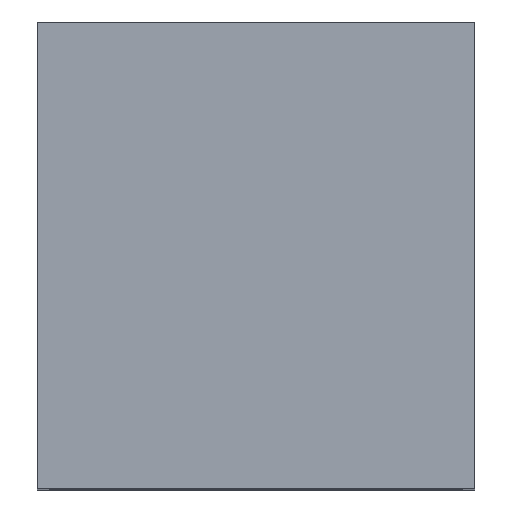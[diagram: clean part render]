
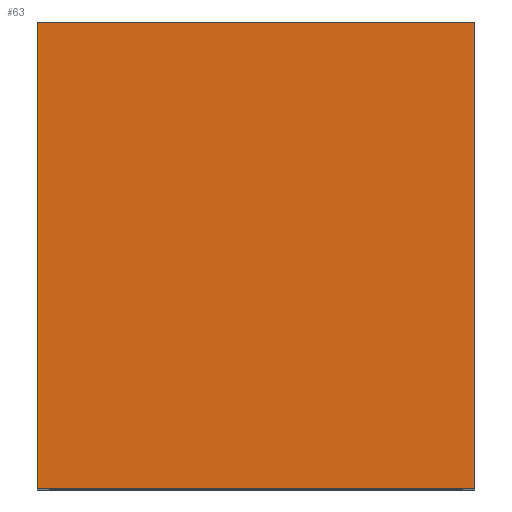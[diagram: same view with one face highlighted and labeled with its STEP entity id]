
A CAD part, top view. The second image highlights one B-rep face of the part: STEP entity #63.
In plain terms, the highlighted planar face has unit normal (0, 0, 1).
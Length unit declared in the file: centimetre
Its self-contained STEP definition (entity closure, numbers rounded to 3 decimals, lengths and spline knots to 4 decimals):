
#63=ADVANCED_FACE($,(#147),#931,.T.);
#147=FACE_OUTER_BOUND($,#231,.T.);
#231=EDGE_LOOP($,(#384,#385,#386,#387));
#384=ORIENTED_EDGE($,*,*,#671,.F.);
#385=ORIENTED_EDGE($,*,*,#670,.F.);
#386=ORIENTED_EDGE($,*,*,#669,.F.);
#387=ORIENTED_EDGE($,*,*,#668,.F.);
#668=EDGE_CURVE($,#824,#825,#1032,.T.);
#669=EDGE_CURVE($,#825,#826,#1033,.T.);
#670=EDGE_CURVE($,#826,#827,#1034,.T.);
#671=EDGE_CURVE($,#827,#824,#1035,.T.);
#824=VERTEX_POINT($,#1570);
#825=VERTEX_POINT($,#1571);
#826=VERTEX_POINT($,#1572);
#827=VERTEX_POINT($,#1573);
#931=PLANE($,#1271);
#1032=B_SPLINE_CURVE_WITH_KNOTS($,1,(#1544,#1545),.UNSPECIFIED.,.F.,.F.,
(2,2),(0.,48.),.UNSPECIFIED.);
#1033=B_SPLINE_CURVE_WITH_KNOTS($,1,(#1546,#1547),.UNSPECIFIED.,.F.,.F.,
(2,2),(0.,45.),.UNSPECIFIED.);
#1034=B_SPLINE_CURVE_WITH_KNOTS($,1,(#1548,#1549),.UNSPECIFIED.,.F.,.F.,
(2,2),(0.,48.),.UNSPECIFIED.);
#1035=B_SPLINE_CURVE_WITH_KNOTS($,1,(#1550,#1551),.UNSPECIFIED.,.F.,.F.,
(2,2),(0.,45.),.UNSPECIFIED.);
#1271=AXIS2_PLACEMENT_3D($,#1565,#1358,$);
#1358=DIRECTION($,(0.,0.,1.));
#1544=CARTESIAN_POINT($,(0.,0.,71.));
#1545=CARTESIAN_POINT($,(0.,48.,71.));
#1546=CARTESIAN_POINT($,(0.,48.,71.));
#1547=CARTESIAN_POINT($,(45.,48.,71.));
#1548=CARTESIAN_POINT($,(45.,48.,71.));
#1549=CARTESIAN_POINT($,(45.,0.,71.));
#1550=CARTESIAN_POINT($,(45.,0.,71.));
#1551=CARTESIAN_POINT($,(0.,0.,71.));
#1565=CARTESIAN_POINT($,(0.,0.,71.));
#1570=CARTESIAN_POINT($,(0.,0.,71.));
#1571=CARTESIAN_POINT($,(0.,48.,71.));
#1572=CARTESIAN_POINT($,(45.,48.,71.));
#1573=CARTESIAN_POINT($,(45.,0.,71.));
